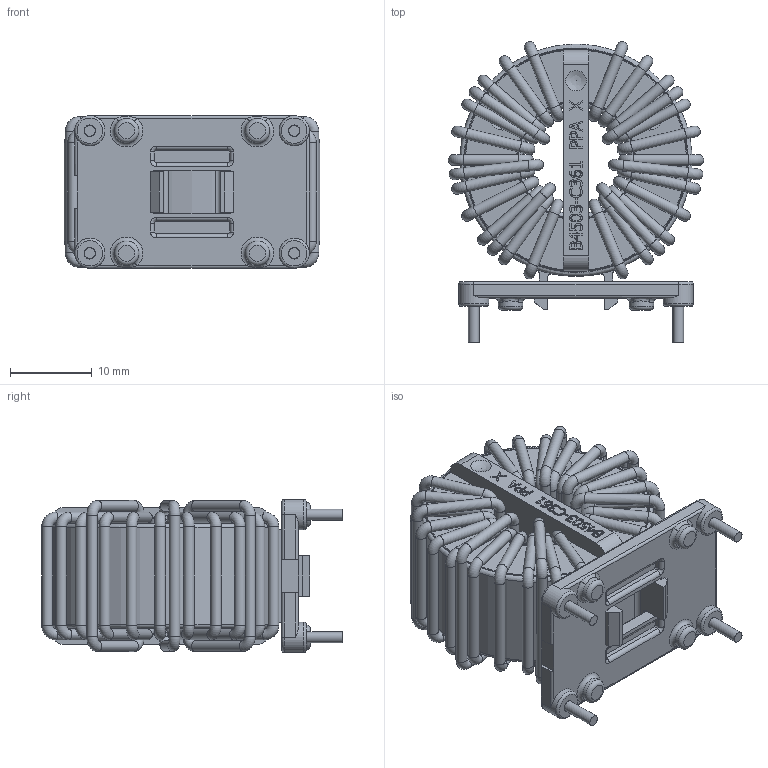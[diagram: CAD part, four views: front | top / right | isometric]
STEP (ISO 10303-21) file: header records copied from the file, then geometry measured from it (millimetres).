
FILE_DESCRIPTION(/* description */ (''),/* implementation_level */ '2;1');
FILE_NAME(/* name */ 'G:\KB-FTKon\CAD\Inventor\Bauelementnummer\6127-X013\6127-X013_Shrinkwrap_1.stp',/* time_stamp */ '2019-04-30T11:01:20+02:00',/* author */ ('de041100'),/* organization */ (''),/* preprocessor_version */ 'ST-DEVELOPER v17.2',/* originating_system */ 'Autodesk Inventor 2019',/* authorisation */ '');
FILE_SCHEMA (('AUTOMOTIVE_DESIGN { 1 0 10303 214 3 1 1 }'));
Length unit declared in the file: millimetre
Products named in the file (1): 6127-X013_Shrinkwrap_1
Bounding box: 31.24 x 36.76 x 18.7 mm (x, y, z)
Volume: 9691.4 mm3; surface area: 10866.7 mm2
Topology: 21 solids, 21 shells, 1358 faces, 3950 edges, 2644 vertices
Faces by surface type: plane 557, bspline 382, cylinder 237, torus 172, sphere 6, cone 4
Full cylindrical faces by diameter (mm): 1.32 x104, 1.4 x4, 3 x4, 3.7 x4, 13.2 x1, 14.4 x1, 27.2 x1, 28.4 x1
Entity records: 50466 total; most frequent: CARTESIAN_POINT 14770, ORIENTED_EDGE 7890, DIRECTION 6091, EDGE_CURVE 3945, VERTEX_POINT 2644, AXIS2_PLACEMENT_3D 2067, LINE 1957, VECTOR 1957
